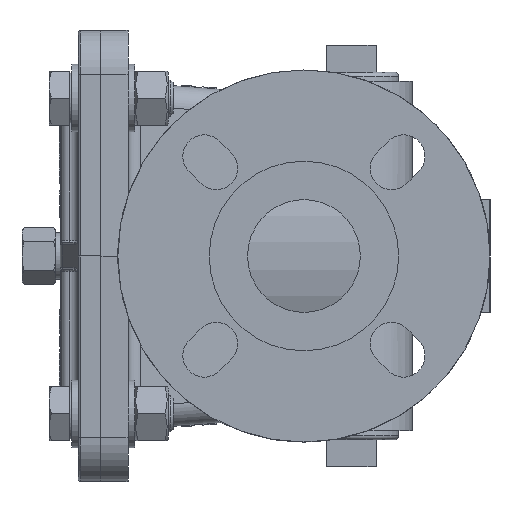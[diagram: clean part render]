
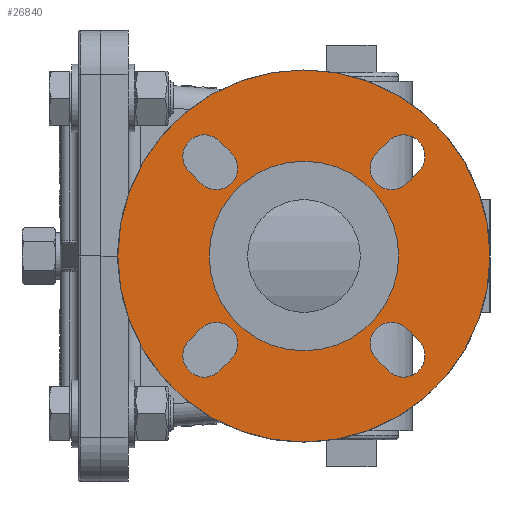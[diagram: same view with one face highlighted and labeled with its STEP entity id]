
A CAD part, left-side view. The second image highlights one B-rep face of the part: STEP entity #26840.
In plain terms, the highlighted planar face has unit normal (-1, 0, 0).
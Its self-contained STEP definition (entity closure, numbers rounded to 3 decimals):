
#446=LINE('',#42262,#2884);
#450=LINE('',#42274,#2888);
#454=LINE('',#42286,#2892);
#458=LINE('',#42298,#2896);
#462=LINE('',#42310,#2900);
#466=LINE('',#42322,#2904);
#470=LINE('',#42334,#2908);
#474=LINE('',#42346,#2912);
#2884=VECTOR('',#30414,10.);
#2888=VECTOR('',#30426,10.);
#2892=VECTOR('',#30438,10.);
#2896=VECTOR('',#30450,10.);
#2900=VECTOR('',#30462,10.);
#2904=VECTOR('',#30474,10.);
#2908=VECTOR('',#30486,10.);
#2912=VECTOR('',#30498,10.);
#5899=PLANE('',#28749);
#6351=FACE_BOUND('',#8963,.T.);
#6352=FACE_BOUND('',#8964,.T.);
#6353=FACE_BOUND('',#8965,.T.);
#6354=FACE_BOUND('',#8966,.T.);
#6355=FACE_BOUND('',#8967,.T.);
#7349=FACE_OUTER_BOUND('',#8962,.T.);
#8962=EDGE_LOOP('',(#22059));
#8963=EDGE_LOOP('',(#22060,#22061,#22062,#22063));
#8964=EDGE_LOOP('',(#22064,#22065,#22066,#22067));
#8965=EDGE_LOOP('',(#22068,#22069,#22070,#22071));
#8966=EDGE_LOOP('',(#22072,#22073,#22074,#22075));
#8967=EDGE_LOOP('',(#22076));
#10583=CIRCLE('',#28095,9.5);
#10585=CIRCLE('',#28099,9.5);
#10587=CIRCLE('',#28103,9.5);
#10589=CIRCLE('',#28107,9.5);
#10591=CIRCLE('',#28111,9.5);
#10593=CIRCLE('',#28115,9.5);
#10595=CIRCLE('',#28119,9.5);
#10597=CIRCLE('',#28123,9.5);
#10708=CIRCLE('',#28747,42.);
#10710=CIRCLE('',#28750,82.5);
#11423=VERTEX_POINT('',#42259);
#11424=VERTEX_POINT('',#42261);
#11426=VERTEX_POINT('',#42267);
#11428=VERTEX_POINT('',#42273);
#11431=VERTEX_POINT('',#42283);
#11432=VERTEX_POINT('',#42285);
#11434=VERTEX_POINT('',#42291);
#11436=VERTEX_POINT('',#42297);
#11439=VERTEX_POINT('',#42307);
#11440=VERTEX_POINT('',#42309);
#11442=VERTEX_POINT('',#42315);
#11444=VERTEX_POINT('',#42321);
#11447=VERTEX_POINT('',#42331);
#11448=VERTEX_POINT('',#42333);
#11450=VERTEX_POINT('',#42339);
#11452=VERTEX_POINT('',#42345);
#12604=VERTEX_POINT('',#50995);
#12606=VERTEX_POINT('',#51001);
#14126=EDGE_CURVE('',#11424,#11423,#446,.T.);
#14129=EDGE_CURVE('',#11426,#11424,#10583,.T.);
#14132=EDGE_CURVE('',#11428,#11426,#450,.T.);
#14135=EDGE_CURVE('',#11423,#11428,#10585,.T.);
#14138=EDGE_CURVE('',#11432,#11431,#454,.T.);
#14141=EDGE_CURVE('',#11434,#11432,#10587,.T.);
#14144=EDGE_CURVE('',#11436,#11434,#458,.T.);
#14147=EDGE_CURVE('',#11431,#11436,#10589,.T.);
#14150=EDGE_CURVE('',#11440,#11439,#462,.T.);
#14153=EDGE_CURVE('',#11442,#11440,#10591,.T.);
#14156=EDGE_CURVE('',#11444,#11442,#466,.T.);
#14159=EDGE_CURVE('',#11439,#11444,#10593,.T.);
#14162=EDGE_CURVE('',#11448,#11447,#470,.T.);
#14165=EDGE_CURVE('',#11450,#11448,#10595,.T.);
#14168=EDGE_CURVE('',#11452,#11450,#474,.T.);
#14171=EDGE_CURVE('',#11447,#11452,#10597,.T.);
#15945=EDGE_CURVE('',#12604,#12604,#10708,.T.);
#15948=EDGE_CURVE('',#12606,#12606,#10710,.T.);
#22059=ORIENTED_EDGE('',*,*,#15948,.F.);
#22060=ORIENTED_EDGE('',*,*,#14132,.T.);
#22061=ORIENTED_EDGE('',*,*,#14129,.T.);
#22062=ORIENTED_EDGE('',*,*,#14126,.T.);
#22063=ORIENTED_EDGE('',*,*,#14135,.T.);
#22064=ORIENTED_EDGE('',*,*,#14144,.T.);
#22065=ORIENTED_EDGE('',*,*,#14141,.T.);
#22066=ORIENTED_EDGE('',*,*,#14138,.T.);
#22067=ORIENTED_EDGE('',*,*,#14147,.T.);
#22068=ORIENTED_EDGE('',*,*,#14156,.T.);
#22069=ORIENTED_EDGE('',*,*,#14153,.T.);
#22070=ORIENTED_EDGE('',*,*,#14150,.T.);
#22071=ORIENTED_EDGE('',*,*,#14159,.T.);
#22072=ORIENTED_EDGE('',*,*,#14168,.T.);
#22073=ORIENTED_EDGE('',*,*,#14165,.T.);
#22074=ORIENTED_EDGE('',*,*,#14162,.T.);
#22075=ORIENTED_EDGE('',*,*,#14171,.T.);
#22076=ORIENTED_EDGE('',*,*,#15945,.F.);
#26840=ADVANCED_FACE('',(#7349,#6351,#6352,#6353,#6354,#6355),#5899,.F.);
#28095=AXIS2_PLACEMENT_3D('',#42268,#30420,#30421);
#28099=AXIS2_PLACEMENT_3D('',#42278,#30432,#30433);
#28103=AXIS2_PLACEMENT_3D('',#42292,#30444,#30445);
#28107=AXIS2_PLACEMENT_3D('',#42302,#30456,#30457);
#28111=AXIS2_PLACEMENT_3D('',#42316,#30468,#30469);
#28115=AXIS2_PLACEMENT_3D('',#42326,#30480,#30481);
#28119=AXIS2_PLACEMENT_3D('',#42340,#30492,#30493);
#28123=AXIS2_PLACEMENT_3D('',#42350,#30504,#30505);
#28747=AXIS2_PLACEMENT_3D('',#50996,#32975,#32976);
#28749=AXIS2_PLACEMENT_3D('',#51000,#32980,#32981);
#28750=AXIS2_PLACEMENT_3D('',#51002,#32982,#32983);
#30414=DIRECTION('',(0.,0.707,0.707));
#30420=DIRECTION('center_axis',(1.,0.,0.));
#30421=DIRECTION('ref_axis',(0.,-0.707,-0.707));
#30426=DIRECTION('',(0.,-0.707,-0.707));
#30432=DIRECTION('center_axis',(1.,0.,0.));
#30433=DIRECTION('ref_axis',(0.,0.707,0.707));
#30438=DIRECTION('',(0.,0.707,-0.707));
#30444=DIRECTION('center_axis',(1.,0.,0.));
#30445=DIRECTION('ref_axis',(0.,-0.707,0.707));
#30450=DIRECTION('',(0.,-0.707,0.707));
#30456=DIRECTION('center_axis',(1.,0.,0.));
#30457=DIRECTION('ref_axis',(0.,0.707,-0.707));
#30462=DIRECTION('',(0.,-0.707,-0.707));
#30468=DIRECTION('center_axis',(1.,0.,0.));
#30469=DIRECTION('ref_axis',(0.,0.707,0.707));
#30474=DIRECTION('',(0.,0.707,0.707));
#30480=DIRECTION('center_axis',(1.,0.,0.));
#30481=DIRECTION('ref_axis',(0.,-0.707,-0.707));
#30486=DIRECTION('',(0.,-0.707,0.707));
#30492=DIRECTION('center_axis',(1.,0.,0.));
#30493=DIRECTION('ref_axis',(0.,0.707,-0.707));
#30498=DIRECTION('',(0.,0.707,-0.707));
#30504=DIRECTION('center_axis',(1.,0.,0.));
#30505=DIRECTION('ref_axis',(0.,-0.707,0.707));
#32975=DIRECTION('center_axis',(-1.,0.,0.));
#32976=DIRECTION('ref_axis',(0.,0.,-1.));
#32980=DIRECTION('center_axis',(1.,0.,0.));
#32981=DIRECTION('ref_axis',(0.,0.,-1.));
#32982=DIRECTION('center_axis',(1.,0.,0.));
#32983=DIRECTION('ref_axis',(0.,0.,-1.));
#42259=CARTESIAN_POINT('',(-112.,-32.173,-45.608));
#42261=CARTESIAN_POINT('',(-112.,-37.477,-50.912));
#42262=CARTESIAN_POINT('',(-112.,-12.728,-26.163));
#42267=CARTESIAN_POINT('',(-112.,-50.912,-37.477));
#42268=CARTESIAN_POINT('Origin',(-112.,-44.194,-44.194));
#42273=CARTESIAN_POINT('',(-112.,-45.608,-32.173));
#42274=CARTESIAN_POINT('',(-112.,-28.815,-15.38));
#42278=CARTESIAN_POINT('Origin',(-112.,-38.891,-38.891));
#42283=CARTESIAN_POINT('',(-112.,-45.608,32.173));
#42285=CARTESIAN_POINT('',(-112.,-50.912,37.477));
#42286=CARTESIAN_POINT('',(-112.,-26.163,12.728));
#42291=CARTESIAN_POINT('',(-112.,-37.477,50.912));
#42292=CARTESIAN_POINT('Origin',(-112.,-44.194,44.194));
#42297=CARTESIAN_POINT('',(-112.,-32.173,45.608));
#42298=CARTESIAN_POINT('',(-112.,-15.38,28.815));
#42302=CARTESIAN_POINT('Origin',(-112.,-38.891,38.891));
#42307=CARTESIAN_POINT('',(-112.,32.173,45.608));
#42309=CARTESIAN_POINT('',(-112.,37.477,50.912));
#42310=CARTESIAN_POINT('',(-112.,12.728,26.163));
#42315=CARTESIAN_POINT('',(-112.,50.912,37.477));
#42316=CARTESIAN_POINT('Origin',(-112.,44.194,44.194));
#42321=CARTESIAN_POINT('',(-112.,45.608,32.173));
#42322=CARTESIAN_POINT('',(-112.,28.815,15.38));
#42326=CARTESIAN_POINT('Origin',(-112.,38.891,38.891));
#42331=CARTESIAN_POINT('',(-112.,45.608,-32.173));
#42333=CARTESIAN_POINT('',(-112.,50.912,-37.477));
#42334=CARTESIAN_POINT('',(-112.,26.163,-12.728));
#42339=CARTESIAN_POINT('',(-112.,37.477,-50.912));
#42340=CARTESIAN_POINT('Origin',(-112.,44.194,-44.194));
#42345=CARTESIAN_POINT('',(-112.,32.173,-45.608));
#42346=CARTESIAN_POINT('',(-112.,15.38,-28.815));
#42350=CARTESIAN_POINT('Origin',(-112.,38.891,-38.891));
#50995=CARTESIAN_POINT('',(-112.,0.,42.));
#50996=CARTESIAN_POINT('Origin',(-112.,0.,0.));
#51000=CARTESIAN_POINT('Origin',(-112.,0.,0.));
#51001=CARTESIAN_POINT('',(-112.,0.,82.5));
#51002=CARTESIAN_POINT('Origin',(-112.,0.,0.));
